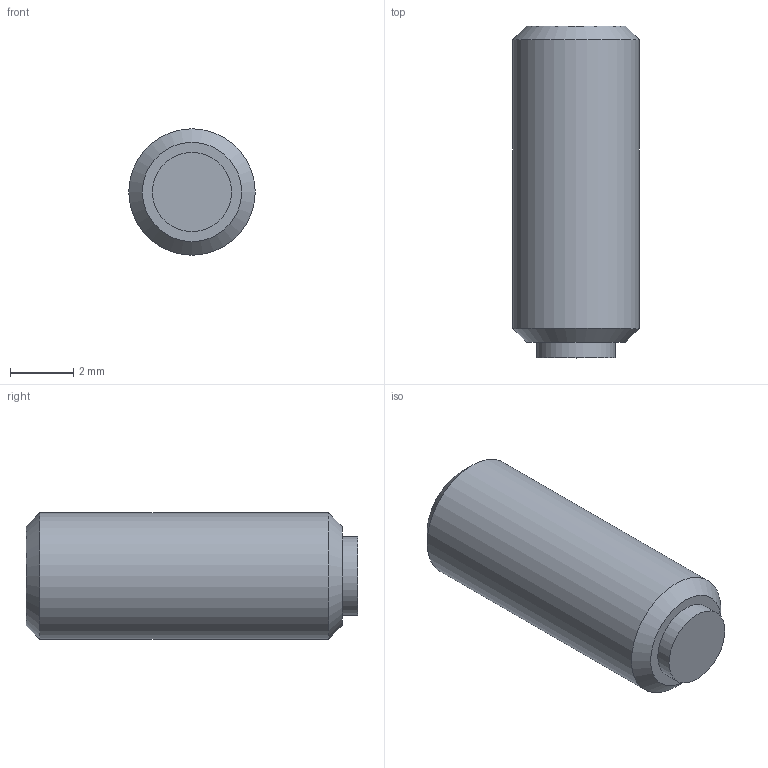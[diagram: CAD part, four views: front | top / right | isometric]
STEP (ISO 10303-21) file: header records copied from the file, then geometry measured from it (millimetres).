
FILE_DESCRIPTION( ( 'STEP AP203' ), '1' );
FILE_NAME( 'C:/Temp/Ganter_Step_05_03_2020/data/3_2/gn913_3/Grub screw GN 913.3-M4-10-MS.stp', '2020-03-13T05:35:45', ( 'License CC BY-ND 4.0' ), ( 'CADENAS' ), ' ', 'PARTsolutions', ' ' );
FILE_SCHEMA( ( 'CONFIG_CONTROL_DESIGN' ) );
Length unit declared in the file: millimetre
Products named in the file (1): _Grub screw GN 913.3-M4-10-MS
Bounding box: 4 x 10.5 x 4 mm (x, y, z)
Volume: 117.3 mm3; surface area: 165.2 mm2
Topology: 1 solids, 1 shells, 14 faces, 28 edges, 18 vertices
Faces by surface type: plane 10, cylinder 2, cone 2
Full cylindrical faces by diameter (mm): 2.5 x1, 4 x1
Entity records: 386 total; most frequent: DIRECTION 60, CARTESIAN_POINT 57, ORIENTED_EDGE 48, EDGE_CURVE 24, AXIS2_PLACEMENT_3D 21, EDGE_LOOP 20, VERTEX_POINT 18, LINE 18
